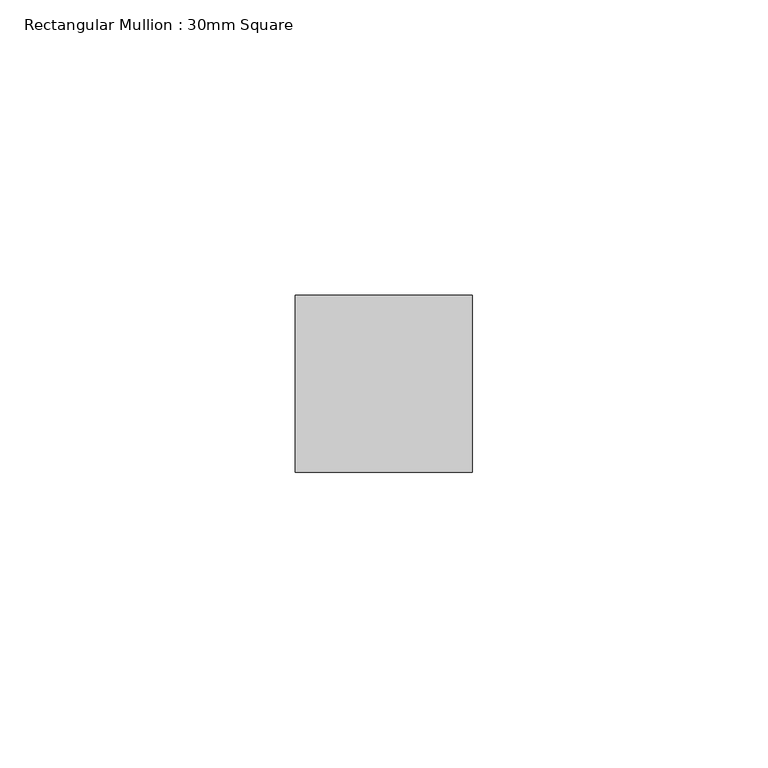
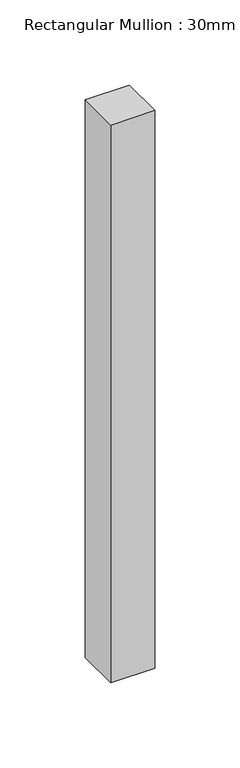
"""IFC4 building model written with IfcOpenShell, lengths in millimetres: member geometry, Rectangular Mullion : 30mm Square."""

import ifcopenshell
import ifcopenshell.guid

model = None  # the IFC model being written
_history = None  # IfcOwnerHistory: only IFC2X3 demands one
_inside = {}  # id of a spatial element -> (the spatial element, [elements in it])
_under = {}  # id of a project, library or spatial element -> (it, [spatial elements below it])
_declared = {}  # id of a project -> (the project, [libraries it declares])
_typed = {}  # id of a type object -> (the type object, [elements of that type])
_made_of = {}  # id of a material, layer set ... -> (it, [elements and type objects made of it])


def new_model(schema):
    """Start an empty IFC model of exactly this schema.

    Asked for "IFC4X3", IfcOpenShell would pick the latest addendum, in which some entities
    have other attributes; the version numbers below select the first issue.
    IFC2X3 requires an IfcOwnerHistory on every rooted entity: one is made here for all.
    """
    global model, _history
    if schema == "IFC4X3":
        model = ifcopenshell.file(schema_version=(4, 3, 0, 0))
    else:
        model = ifcopenshell.file(schema=schema)
    _inside.clear()
    _under.clear()
    _declared.clear()
    _typed.clear()
    _made_of.clear()
    _history = None
    if model.schema == "IFC2X3":
        org = make("IfcOrganization", Name="unknown")
        user = make(
            "IfcPersonAndOrganization",
            ThePerson=make("IfcPerson", FamilyName="unknown"),
            TheOrganization=org,
        )
        app = make(
            "IfcApplication",
            ApplicationDeveloper=org,
            Version="unknown",
            ApplicationFullName="unknown",
            ApplicationIdentifier="unknown",
        )
        _history = make(
            "IfcOwnerHistory",
            OwningUser=user,
            OwningApplication=app,
            ChangeAction="ADDED",
            CreationDate=0,
        )
    return model


def make(cls, **values):
    """One entity of the class cls with the attributes given. An attribute that is None is left unset."""
    return model.create_entity(
        cls, **{name: value for name, value in values.items() if value is not None}
    )


def rooted(cls, **values):
    """An entity with a GlobalId (a new one), such as an element, a storey or a relation."""
    return make(cls, GlobalId=ifcopenshell.guid.new(), OwnerHistory=_history, **values)


def si_unit(unit_type, name, prefix=None):
    """IfcSIUnit, for example si_unit("LENGTHUNIT", "METRE", prefix="MILLI")."""
    return make("IfcSIUnit", UnitType=unit_type, Prefix=prefix, Name=name)


def assignment(units):
    """IfcUnitAssignment: the units of a project."""
    return None if units is None else make("IfcUnitAssignment", Units=units)


def point(xyz):
    """IfcCartesianPoint."""
    return None if xyz is None else make("IfcCartesianPoint", Coordinates=xyz)


def direction(xyz):
    """IfcDirection."""
    return None if xyz is None else make("IfcDirection", DirectionRatios=xyz)


def frame(location, z_axis=None, x_axis=None):
    """IfcAxis2Placement3D, a coordinate frame: its origin and axes. An axis left out is left unset."""
    return make(
        "IfcAxis2Placement3D",
        Location=point(location),
        Axis=direction(z_axis),
        RefDirection=direction(x_axis),
    )


def origin():
    """The frame at (0, 0, 0) with its axes left unset."""
    return frame((0.0, 0.0, 0.0))


def place(relative_to, where):
    """IfcLocalPlacement: puts the frame where relative to a parent placement (None: the world)."""
    return make(
        "IfcLocalPlacement", PlacementRelTo=relative_to, RelativePlacement=where
    )


def context(
    kind, dimensions, precision=None, world=None, true_north=None, identifier=None
):
    """IfcGeometricRepresentationContext, for example the 3D "Model" context."""
    return make(
        "IfcGeometricRepresentationContext",
        ContextIdentifier=identifier,
        ContextType=kind,
        CoordinateSpaceDimension=dimensions,
        Precision=precision,
        WorldCoordinateSystem=world,
        TrueNorth=true_north,
    )


def project(units=None, contexts=None):
    """IfcProject with its units and contexts."""
    return rooted(
        "IfcProject",
        Name="project",
        RepresentationContexts=contexts,
        UnitsInContext=assignment(units),
    )


def spatial(cls, under=None, at=None, **own):
    """A site, building, storey or space (cls), placed at a placement, below another one or the project."""
    s = rooted(cls, ObjectPlacement=at, **own)
    if under is not None:
        _under.setdefault(under.id(), (under, []))[1].append(s)
    return s


def polyline(points):
    """IfcPolyline through the points."""
    return make("IfcPolyline", Points=[point(p) for p in points])


def outline(outer, holes=None, kind="AREA"):
    """IfcArbitraryClosedProfileDef: a profile drawn as a closed curve; with holes, ...WithVoids."""
    if holes is None:
        return make("IfcArbitraryClosedProfileDef", ProfileType=kind, OuterCurve=outer)
    return make(
        "IfcArbitraryProfileDefWithVoids",
        ProfileType=kind,
        OuterCurve=outer,
        InnerCurves=holes,
    )


def extrude(swept, where, along, depth):
    """IfcExtrudedAreaSolid: the profile swept, set in the frame where, extruded along a direction by depth."""
    return make(
        "IfcExtrudedAreaSolid",
        SweptArea=swept,
        Position=where,
        ExtrudedDirection=direction(along),
        Depth=depth,
    )


def shape(context_of_items, identifier, shape_type, items):
    """IfcShapeRepresentation: the items that make up one representation, for example the "Body"."""
    return make(
        "IfcShapeRepresentation",
        ContextOfItems=context_of_items,
        RepresentationIdentifier=identifier,
        RepresentationType=shape_type,
        Items=items,
    )


def source(mapping_origin, context_of_items, identifier, shape_type, items):
    """IfcRepresentationMap: a shape defined once, which mapped items show again and again."""
    return make(
        "IfcRepresentationMap",
        MappingOrigin=mapping_origin,
        MappedRepresentation=shape(context_of_items, identifier, shape_type, items),
    )


def transform(
    local_origin,
    x_axis=None,
    y_axis=None,
    z_axis=None,
    scale=None,
    scale2=None,
    scale3=None,
    uniform=True,
):
    """IfcCartesianTransformationOperator3D, or its non-uniform kind. x_axis, y_axis, z_axis: its Axis1, 2, 3."""
    if uniform:
        return make(
            "IfcCartesianTransformationOperator3D",
            Axis1=direction(x_axis),
            Axis2=direction(y_axis),
            LocalOrigin=point(local_origin),
            Scale=scale,
            Axis3=direction(z_axis),
        )
    return make(
        "IfcCartesianTransformationOperator3DnonUniform",
        Axis1=direction(x_axis),
        Axis2=direction(y_axis),
        LocalOrigin=point(local_origin),
        Scale=scale,
        Axis3=direction(z_axis),
        Scale2=scale2,
        Scale3=scale3,
    )


def mapped(mapping_source, mapping_target):
    """IfcMappedItem: shows the shape of a source again, moved by a transform."""
    return make(
        "IfcMappedItem", MappingSource=mapping_source, MappingTarget=mapping_target
    )


def made_of(thing, what):
    """Note that an element or type object is made of a material, layer set ...; save() writes the relation."""
    if what is not None:
        _made_of.setdefault(what.id(), (what, []))[1].append(thing)
    return thing


def element(
    cls,
    number,
    at=None,
    inside=None,
    cuts=None,
    type_object=None,
    material=None,
    context=None,
    identifier="Body",
    shape_type=None,
    held_by="IfcProductDefinitionShape",
    body=None,
    shapes=None,
    **own,
):
    """One element of the class cls, such as IfcWall. Its Tag is "e" and its number.

    at: its placement. inside: the storey or other place that contains it. cuts: it is an
    opening in that element (IfcRelVoidsElement). A single representation is given by context,
    identifier, shape_type and body (its items); several are given by shapes. held_by: the class
    of the entity that holds the representations. save() writes the other relations.
    """
    e = rooted(cls, Tag="e%d" % number, ObjectPlacement=at, **own)
    if body is not None:
        shapes = [shape(context, identifier, shape_type, body)]
    if shapes is not None:
        e.Representation = make(held_by, Representations=shapes)
    if inside is not None:
        _inside.setdefault(inside.id(), (inside, []))[1].append(e)
    if cuts is not None:
        rooted(
            "IfcRelVoidsElement", RelatingBuildingElement=cuts, RelatedOpeningElement=e
        )
    if type_object is not None:
        _typed.setdefault(type_object.id(), (type_object, []))[1].append(e)
    return made_of(e, material)


def aggregate(whole, parts):
    """IfcRelAggregates: a whole, such as a stair, and the parts it consists of."""
    return rooted("IfcRelAggregates", RelatingObject=whole, RelatedObjects=parts)


def save(model, path):
    """Write the relations noted so far, then the file.

    IfcRelAggregates (storeys below a building ...), IfcRelContainedInSpatialStructure (elements
    in a storey), IfcRelDefinesByType, IfcRelAssociatesMaterial and IfcRelDeclares: one each for
    every whole, place, type object, material and project.
    """
    for whole, parts in _under.values():
        aggregate(whole, parts)
    for where, things in _inside.values():
        rooted(
            "IfcRelContainedInSpatialStructure",
            RelatedElements=things,
            RelatingStructure=where,
        )
    for kind, things in _typed.values():
        rooted("IfcRelDefinesByType", RelatedObjects=things, RelatingType=kind)
    for what, things in _made_of.values():
        rooted("IfcRelAssociatesMaterial", RelatedObjects=things, RelatingMaterial=what)
    for by, libraries in _declared.values():
        rooted("IfcRelDeclares", RelatingContext=by, RelatedDefinitions=libraries)
    model.write(path)


def rectangular_mullion_30mm_square_7e162248(model_context):
    return source(origin(), model_context, "Body", "SweptSolid", [
        extrude(outline(polyline([(0.0, 15.0), (0.0, -15.0), (-30.0, -15.0), (-30.0, 15.0), (0.0, 15.0)])), frame((0.0, 0.0, -400.0), z_axis=(0.0, 0.0, 1.0), x_axis=(1.0, 0.0, 0.0)), (0.0, 0.0, 1.0), 400.0),
    ])


if __name__ == "__main__":
    model = new_model("IFC4")
    model_context = context("Model", 3, world=origin())
    ifc_project = project(units=[si_unit("LENGTHUNIT", "METRE", prefix="MILLI")], contexts=[model_context])
    site = spatial("IfcSite", under=ifc_project)
    building = spatial("IfcBuilding", under=site)
    placement = place(None, origin())
    rectangular_mullion_30mm_square_shape = rectangular_mullion_30mm_square_7e162248(model_context)
    element("IfcMember", 1, ObjectType="Rectangular Mullion : 30mm Square", at=placement, inside=building, context=model_context, shape_type="MappedRepresentation", body=[
        mapped(rectangular_mullion_30mm_square_shape, transform((0.0, 0.0, 0.0), x_axis=(1.0, 0.0, 0.0), y_axis=(0.0, 1.0, 0.0), z_axis=(0.0, 0.0, 1.0))),
    ])
    save(model, "model.ifc")
